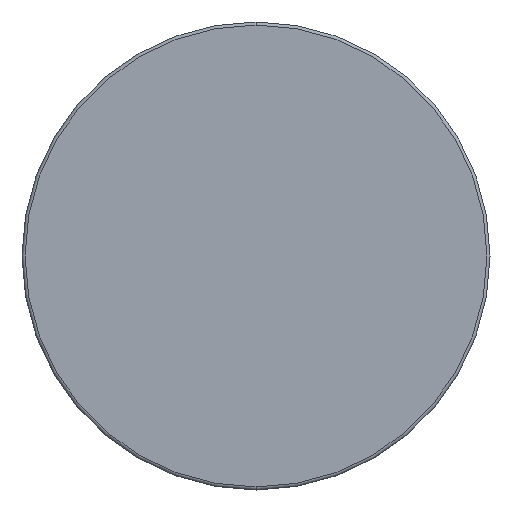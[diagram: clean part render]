
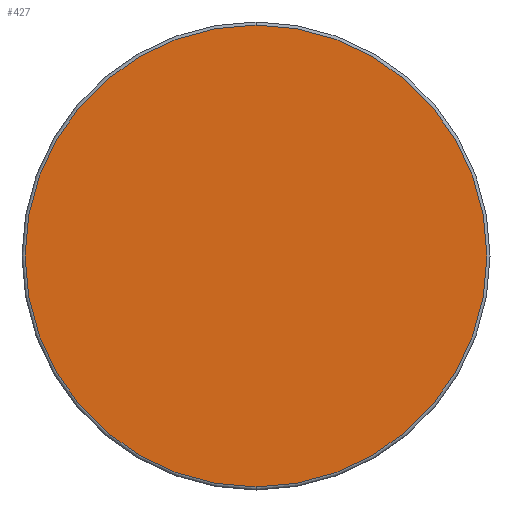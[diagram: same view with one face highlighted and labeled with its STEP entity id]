
A CAD part, front view. The second image highlights one B-rep face of the part: STEP entity #427.
In plain terms, the highlighted planar face has unit normal (0, -1, 0).
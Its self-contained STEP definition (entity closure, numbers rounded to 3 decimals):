
#14 = DIRECTION ( 'NONE',  ( 0., 0., 1. ) ) ;
#19 = AXIS2_PLACEMENT_3D ( 'NONE', #414, #406, #484 ) ;
#85 = FACE_OUTER_BOUND ( 'NONE', #142, .T. ) ;
#91 = PLANE ( 'NONE',  #868 ) ;
#93 = CARTESIAN_POINT ( 'NONE',  ( 0., 0., -74. ) ) ;
#142 = EDGE_LOOP ( 'NONE', ( #660, #752 ) ) ;
#176 = CIRCLE ( 'NONE', #616, 74. ) ;
#232 = DIRECTION ( 'NONE',  ( 0., 1., 0. ) ) ;
#244 = CARTESIAN_POINT ( 'NONE',  ( 0., 0., 0. ) ) ;
#406 = DIRECTION ( 'NONE',  ( 0., -1., 0. ) ) ;
#414 = CARTESIAN_POINT ( 'NONE',  ( 0., 0., 0. ) ) ;
#417 = VERTEX_POINT ( 'NONE', #93 ) ;
#427 = ADVANCED_FACE ( 'NONE', ( #85 ), #91, .F. ) ;
#484 = DIRECTION ( 'NONE',  ( 0., 0., 1. ) ) ;
#616 = AXIS2_PLACEMENT_3D ( 'NONE', #244, #621, #14 ) ;
#621 = DIRECTION ( 'NONE',  ( 0., -1., 0. ) ) ;
#660 = ORIENTED_EDGE ( 'NONE', *, *, #864, .T. ) ;
#689 = DIRECTION ( 'NONE',  ( 0., 0., 1. ) ) ;
#703 = CARTESIAN_POINT ( 'NONE',  ( 0., 0., 0. ) ) ;
#752 = ORIENTED_EDGE ( 'NONE', *, *, #799, .T. ) ;
#799 = EDGE_CURVE ( 'NONE', #417, #802, #888, .T. ) ;
#802 = VERTEX_POINT ( 'NONE', #959 ) ;
#864 = EDGE_CURVE ( 'NONE', #802, #417, #176, .T. ) ;
#868 = AXIS2_PLACEMENT_3D ( 'NONE', #703, #232, #689 ) ;
#888 = CIRCLE ( 'NONE', #19, 74. ) ;
#959 = CARTESIAN_POINT ( 'NONE',  ( 0., 0., 74. ) ) ;
